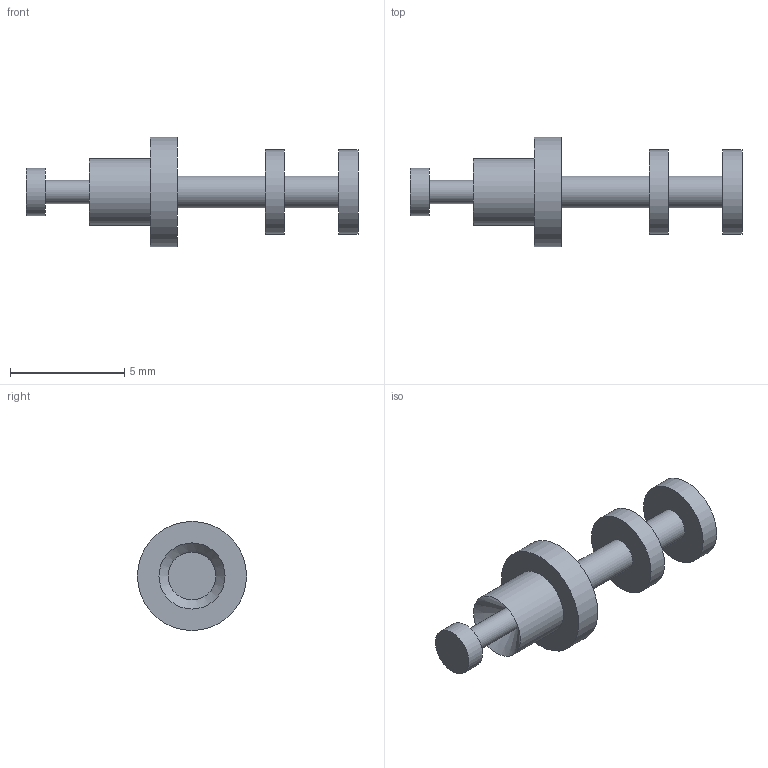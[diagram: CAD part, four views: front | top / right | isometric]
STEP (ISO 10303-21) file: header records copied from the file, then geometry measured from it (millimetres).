
FILE_DESCRIPTION(/* description */ (''),/* implementation_level */ '2;1');
FILE_NAME(/* name */ 'Z:\STEP folder\160-1520-02.ipt.stp',/* time_stamp */ '2016-12-07T10:47:47+00:00',/* author */ ('Paul Karlsons'),/* organization */ (''),/* preprocessor_version */ 'ST-DEVELOPER v15.2',/* originating_system */ 'Autodesk Inventor 2014',/* authorisation */ '');
FILE_SCHEMA (('AUTOMOTIVE_DESIGN { 1 0 10303 214 3 1 1 }'));
Length unit declared in the file: millimetre
Products named in the file (1): 160-1520-02
Bounding box: 14.53 x 4.78 x 4.78 mm (x, y, z)
Volume: 68.4 mm3; surface area: 183.4 mm2
Topology: 1 solids, 1 shells, 17 faces, 25 edges, 16 vertices
Faces by surface type: cylinder 8, plane 8, cone 1
Full cylindrical faces by diameter (mm): 1.016 x1, 1.397 x2, 2.083 x1, 2.896 x1, 3.683 x2, 4.775 x1
Entity records: 355 total; most frequent: DIRECTION 68, CARTESIAN_POINT 50, AXIS2_PLACEMENT_3D 34, EDGE_LOOP 32, ORIENTED_EDGE 32, FACE_BOUND 18, ADVANCED_FACE 17, CIRCLE 16
